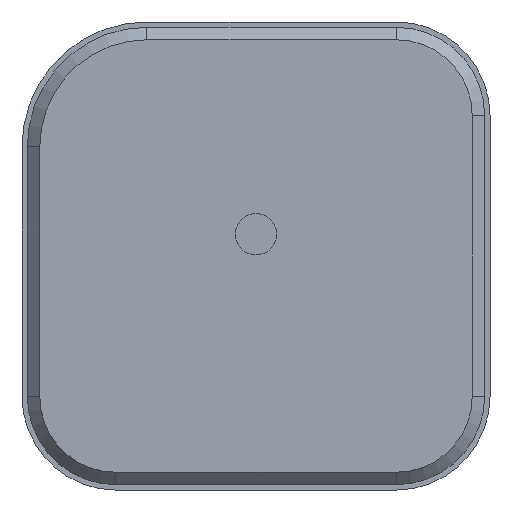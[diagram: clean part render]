
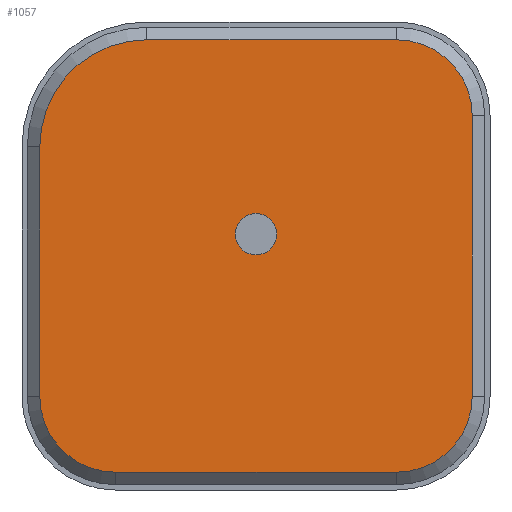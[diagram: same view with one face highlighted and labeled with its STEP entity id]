
A CAD part, front view. The second image highlights one B-rep face of the part: STEP entity #1057.
In plain terms, the highlighted planar face has unit normal (0, -1, 0).
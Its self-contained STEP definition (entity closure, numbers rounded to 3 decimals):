
#280=DIRECTION('',(-1.,0.,0.));
#281=VECTOR('',#280,9.);
#282=CARTESIAN_POINT('',(14.,-4.,-14.43));
#283=LINE('',#282,#281);
#293=CARTESIAN_POINT('',(14.,-4.,-12.));
#294=DIRECTION('',(0.,1.,0.));
#295=DIRECTION('',(1.,0.,0.));
#296=AXIS2_PLACEMENT_3D('',#293,#294,#295);
#310=DIRECTION('',(0.,0.,-1.));
#311=VECTOR('',#310,9.);
#312=CARTESIAN_POINT('',(16.43,-4.,-3.));
#313=LINE('',#312,#311);
#314=CARTESIAN_POINT('',(14.,-4.,-3.));
#315=DIRECTION('',(0.,1.,0.));
#316=DIRECTION('',(0.,0.,1.));
#317=AXIS2_PLACEMENT_3D('',#314,#315,#316);
#328=CARTESIAN_POINT('',(6.,-4.,-4.));
#329=DIRECTION('',(0.,1.,0.));
#330=DIRECTION('',(-1.,0.,0.));
#331=AXIS2_PLACEMENT_3D('',#328,#329,#330);
#342=DIRECTION('',(1.,0.,0.));
#343=VECTOR('',#342,8.);
#344=CARTESIAN_POINT('',(6.,-4.,-0.57));
#345=LINE('',#344,#343);
#358=DIRECTION('',(0.,0.,1.));
#359=VECTOR('',#358,8.);
#360=CARTESIAN_POINT('',(2.57,-4.,-12.));
#361=LINE('',#360,#359);
#371=CARTESIAN_POINT('',(5.,-4.,-12.));
#372=DIRECTION('',(0.,1.,0.));
#373=DIRECTION('',(0.,0.,-1.));
#374=AXIS2_PLACEMENT_3D('',#371,#372,#373);
#385=CARTESIAN_POINT('',(9.5,-4.,-6.8));
#386=DIRECTION('',(0.,-1.,0.));
#387=DIRECTION('',(0.,0.,-1.));
#388=AXIS2_PLACEMENT_3D('',#385,#386,#387);
#390=CARTESIAN_POINT('',(9.5,-4.,-6.8));
#391=DIRECTION('',(0.,-1.,0.));
#392=DIRECTION('',(0.,0.,1.));
#393=AXIS2_PLACEMENT_3D('',#390,#391,#392);
#455=CARTESIAN_POINT('',(9.5,-4.,-6.135));
#457=VERTEX_POINT('',#455);
#461=CARTESIAN_POINT('',(9.5,-4.,-7.465));
#463=VERTEX_POINT('',#461);
#465=CARTESIAN_POINT('',(2.57,-4.,-4.));
#467=VERTEX_POINT('',#465);
#496=CARTESIAN_POINT('',(5.,-4.,-14.43));
#498=VERTEX_POINT('',#496);
#501=CARTESIAN_POINT('',(14.,-4.,-0.57));
#503=VERTEX_POINT('',#501);
#505=CARTESIAN_POINT('',(6.,-4.,-0.57));
#507=VERTEX_POINT('',#505);
#508=CARTESIAN_POINT('',(14.,-4.,-14.43));
#510=VERTEX_POINT('',#508);
#512=CARTESIAN_POINT('',(2.57,-4.,-12.));
#514=VERTEX_POINT('',#512);
#548=CARTESIAN_POINT('',(16.43,-4.,-12.));
#549=VERTEX_POINT('',#548);
#550=CARTESIAN_POINT('',(16.43,-4.,-3.));
#551=VERTEX_POINT('',#550);
#1032=CARTESIAN_POINT('',(14.,-4.,-3.));
#1033=DIRECTION('',(0.,-1.,0.));
#1034=DIRECTION('',(0.,0.,-1.));
#1035=AXIS2_PLACEMENT_3D('',#1032,#1033,#1034);
#1036=PLANE('',#1035);
#1038=ORIENTED_EDGE('',*,*,#1037,.T.);
#1040=ORIENTED_EDGE('',*,*,#1039,.T.);
#1041=ORIENTED_EDGE('',*,*,#1024,.T.);
#1042=ORIENTED_EDGE('',*,*,#1013,.T.);
#1043=ORIENTED_EDGE('',*,*,#999,.T.);
#1044=ORIENTED_EDGE('',*,*,#985,.T.);
#1046=ORIENTED_EDGE('',*,*,#1045,.T.);
#1048=ORIENTED_EDGE('',*,*,#1047,.T.);
#1049=EDGE_LOOP('',(#1038,#1040,#1041,#1042,#1043,#1044,#1046,#1048));
#1050=FACE_OUTER_BOUND('',#1049,.F.);
#1052=ORIENTED_EDGE('',*,*,#1051,.T.);
#1054=ORIENTED_EDGE('',*,*,#1053,.T.);
#1055=EDGE_LOOP('',(#1052,#1054));
#1056=FACE_BOUND('',#1055,.F.);
#1057=ADVANCED_FACE('',(#1050,#1056),#1036,.T.);
#297=CIRCLE('',#296,2.43);
#318=CIRCLE('',#317,2.43);
#332=CIRCLE('',#331,3.43);
#375=CIRCLE('',#374,2.43);
#389=CIRCLE('',#388,0.665);
#394=CIRCLE('',#393,0.665);
#985=EDGE_CURVE('',#510,#498,#283,.T.);
#999=EDGE_CURVE('',#549,#510,#297,.T.);
#1013=EDGE_CURVE('',#551,#549,#313,.T.);
#1024=EDGE_CURVE('',#503,#551,#318,.T.);
#1037=EDGE_CURVE('',#467,#507,#332,.T.);
#1039=EDGE_CURVE('',#507,#503,#345,.T.);
#1045=EDGE_CURVE('',#498,#514,#375,.T.);
#1047=EDGE_CURVE('',#514,#467,#361,.T.);
#1051=EDGE_CURVE('',#463,#457,#389,.T.);
#1053=EDGE_CURVE('',#457,#463,#394,.T.);
